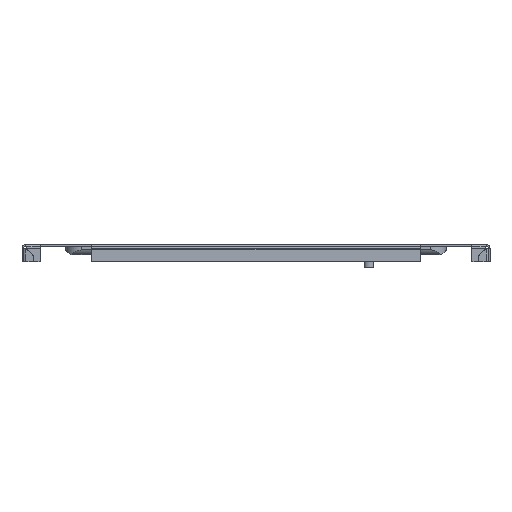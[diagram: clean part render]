
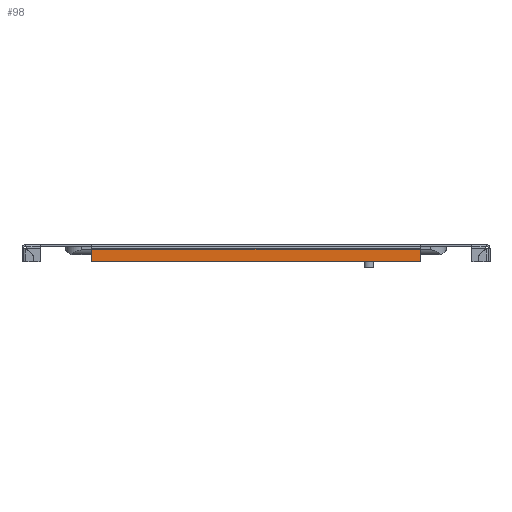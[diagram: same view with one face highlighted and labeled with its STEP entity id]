
A CAD part, front view. The second image highlights one B-rep face of the part: STEP entity #98.
In plain terms, the highlighted planar face has unit normal (0, -1, 0).
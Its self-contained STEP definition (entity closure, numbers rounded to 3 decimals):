
#98=ADVANCED_FACE('',(#452),#454,.F.);
#452=FACE_BOUND('',#453,.T.);
#453=EDGE_LOOP('',(#1915,#1916,#1917,#1918));
#454=PLANE('',#455);
#455=AXIS2_PLACEMENT_3D('',#456,#457,#458);
#456=CARTESIAN_POINT('',(0.,-673.5,0.));
#457=DIRECTION('',(0.,1.,0.));
#458=DIRECTION('',(0.,0.,1.));
#1915=ORIENTED_EDGE('',*,*,#2671,.T.);
#1916=ORIENTED_EDGE('',*,*,#2647,.F.);
#1917=ORIENTED_EDGE('',*,*,#2672,.T.);
#1918=ORIENTED_EDGE('',*,*,#2673,.F.);
#2647=EDGE_CURVE('',#3071,#3072,#3073,.T.);
#2671=EDGE_CURVE('',#3111,#3072,#3112,.T.);
#2672=EDGE_CURVE('',#3071,#3113,#3114,.T.);
#2673=EDGE_CURVE('',#3111,#3113,#3115,.T.);
#3071=VERTEX_POINT('',#3809);
#3072=VERTEX_POINT('',#3810);
#3073=LINE('',#3811,#3812);
#3111=VERTEX_POINT('',#3959);
#3112=LINE('',#3960,#3961);
#3113=VERTEX_POINT('',#3963);
#3114=LINE('',#3964,#3965);
#3115=LINE('',#3967,#3968);
#3809=CARTESIAN_POINT('',(-136.2,-673.5,-3.2));
#3810=CARTESIAN_POINT('',(136.2,-673.5,-3.2));
#3811=CARTESIAN_POINT('',(-136.2,-673.5,-3.2));
#3812=VECTOR('',#3813,1.);
#3813=DIRECTION('',(1.,0.,0.));
#3959=CARTESIAN_POINT('',(136.2,-673.5,-14.));
#3960=CARTESIAN_POINT('',(136.2,-673.5,-14.));
#3961=VECTOR('',#3962,1.);
#3962=DIRECTION('',(0.,0.,1.));
#3963=CARTESIAN_POINT('',(-136.2,-673.5,-14.));
#3964=CARTESIAN_POINT('',(-136.2,-673.5,-3.2));
#3965=VECTOR('',#3966,1.);
#3966=DIRECTION('',(0.,0.,-1.));
#3967=CARTESIAN_POINT('',(136.2,-673.5,-14.));
#3968=VECTOR('',#3969,1.);
#3969=DIRECTION('',(-1.,0.,0.));
